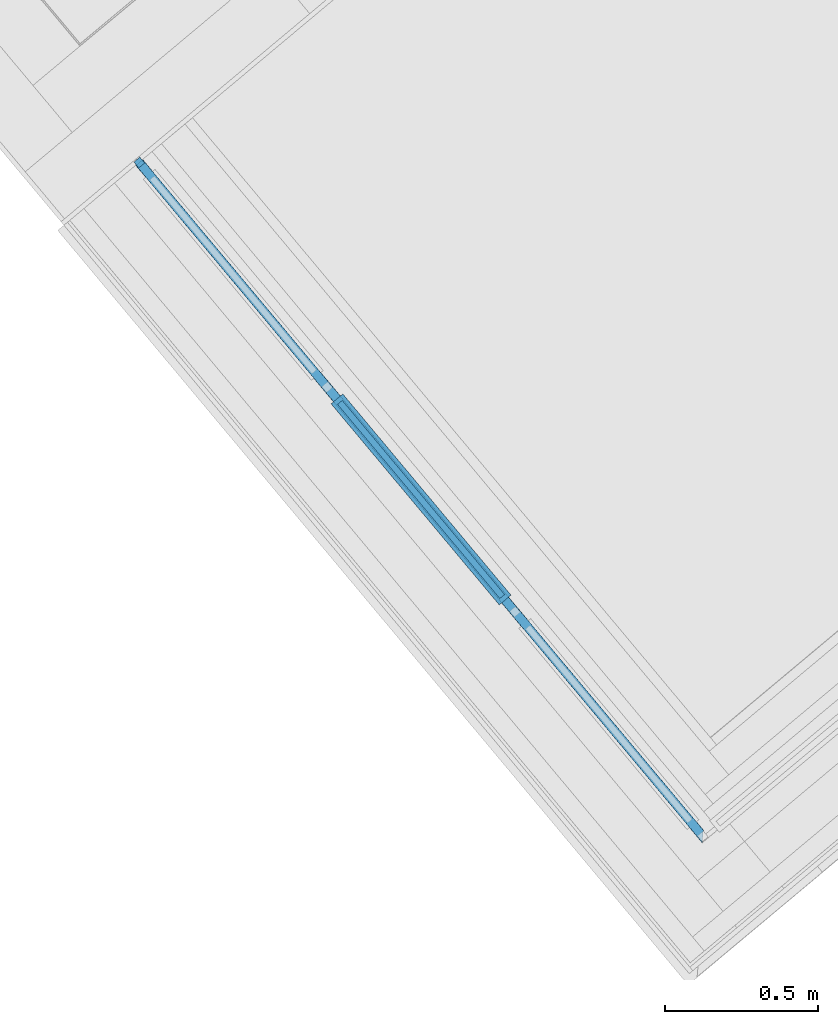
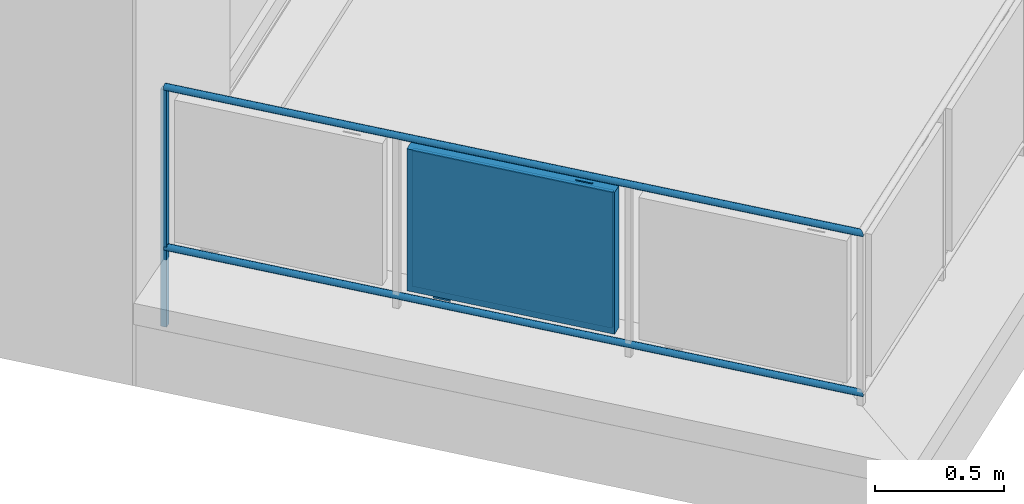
# One storey, part 11 of 50: 5 building element parts, 1 element without a shape of its own.
"""IFC4 building model written with IfcOpenShell, lengths in metres."""

from ifc_helpers import new_model, entity, si_unit, converted_unit, derived_unit, direction, frame, origin_with_axes, place, context, subcontext, project, spatial, polygons, material, type_object, element, aggregate, save


model = new_model("IFC4")

# Units and contexts
model_context = context("Model", 3, precision=1e-05, world=origin_with_axes(), true_north=direction((0.0, 1.0)))
body_context = subcontext(model_context, "Body", "Model", "MODEL_VIEW")
ifc_project = project(units=[si_unit("LENGTHUNIT", "METRE"), si_unit("AREAUNIT", "SQUARE_METRE"), si_unit("VOLUMEUNIT", "CUBIC_METRE"), converted_unit("PLANEANGLEUNIT", "DEGREE", entity("IfcPlaneAngleMeasure", 0.0174532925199), si_unit("PLANEANGLEUNIT", "RADIAN"), dimensions=[0, 0, 0, 0, 0, 0, 0]), converted_unit("TIMEUNIT", "Year", entity("IfcTimeMeasure", 31556926.0), si_unit("TIMEUNIT", "SECOND"), dimensions=[0, 0, 1, 0, 0, 0, 0]), si_unit("MASSUNIT", "GRAM", prefix="KILO"), si_unit("THERMODYNAMICTEMPERATUREUNIT", "DEGREE_CELSIUS"), si_unit("LUMINOUSINTENSITYUNIT", "LUMEN"), si_unit("ENERGYUNIT", "JOULE", prefix="MEGA"), derived_unit("THERMALCONDUCTANCEUNIT", [(si_unit("POWERUNIT", "WATT"), 1), (si_unit("LENGTHUNIT", "METRE"), -1), (si_unit("THERMODYNAMICTEMPERATUREUNIT", "KELVIN"), -1)]), derived_unit("SPECIFICHEATCAPACITYUNIT", [(si_unit("ENERGYUNIT", "JOULE"), 1), (si_unit("MASSUNIT", "GRAM", prefix="KILO"), -1), (si_unit("THERMODYNAMICTEMPERATUREUNIT", "KELVIN"), -1)]), derived_unit("MASSDENSITYUNIT", [(si_unit("MASSUNIT", "GRAM", prefix="KILO"), 1), (si_unit("VOLUMEUNIT", "CUBIC_METRE"), -1)])], contexts=[model_context])

# Site, building, storey, space
site_placement = place(None, frame((-0.00153261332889, -0.00661245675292, 0.0), z_axis=(0.0, 0.0, 1.0), x_axis=(1.0, 0.0, 0.0)))
site = spatial("IfcSite", under=ifc_project, at=site_placement, Name="Gelände", CompositionType="ELEMENT")
building_placement = place(site_placement, origin_with_axes())
building = spatial("IfcBuilding", under=site, at=building_placement, Name="Gebäude", CompositionType="ELEMENT")
storey_placement = place(building_placement, frame((0.0, 0.0, 8.66), z_axis=(0.0, 0.0, 1.0), x_axis=(1.0, 0.0, 0.0)))
storey = spatial("IfcBuildingStorey", under=building, at=storey_placement, Name="DG2", CompositionType="ELEMENT", Elevation=8.66)
space_placement = place(storey_placement, frame((2.45868563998, 17.3922711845, 0.22), z_axis=(0.0, 0.0, 1.0), x_axis=(-0.766948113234, -0.641709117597, 0.0)))
space = spatial("IfcSpace", under=storey, at=space_placement, CompositionType="ELEMENT", PredefinedType="NOTDEFINED")

# Railing, building element parts
railing_type = type_object("IfcRailingType", Name="Geländerart", PredefinedType="NOTDEFINED")
railing_placement = place(space_placement, frame((7.13717596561, 0.00077071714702, 0.16), z_axis=(0.0, 0.0, 1.0), x_axis=(-0.766948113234, 0.641709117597, 0.0)))
railing = element("IfcRailing", 1, at=railing_placement, inside=space, type_object=railing_type, Name="Geländer - 001", PredefinedType="NOTDEFINED")
ifc_material_1 = material(Name="Aluminium")
building_element_part_1_placement = place(railing_placement, origin_with_axes())
building_element_part_1 = element("IfcBuildingElementPart", 2, at=building_element_part_1_placement, material=ifc_material_1, Name="Aluminium", PredefinedType="NOTDEFINED", context=body_context, shape_type="Tessellation", body=[
    polygons([(-0.039926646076, -0.0496826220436, -0.3), (-0.0207485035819, -0.033645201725, -0.3), (-0.0207485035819, -0.033645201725, 0.82), (-0.039926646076, -0.0496826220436, 0.82), (-0.0559640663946, -0.0305044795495, -0.3), (-0.0367859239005, -0.0144670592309, -0.3), (-0.0367859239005, -0.0144670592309, 0.82), (-0.0559640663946, -0.0305044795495, 0.82)], [[[1, 2, 3, 4]], [[1, 5, 6, 2]], [[2, 6, 7, 3]], [[4, 3, 7, 8]], [[5, 1, 4, 8]], [[6, 5, 8, 7]]], closed=True),
])
building_element_part_2_placement = place(railing_placement, origin_with_axes())
building_element_part_2 = element("IfcBuildingElementPart", 3, at=building_element_part_2_placement, material=ifc_material_1, Name="Aluminium", PredefinedType="NOTDEFINED", context=body_context, shape_type="Tessellation", body=[
    polygons([(-0.0268493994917, -0.0224523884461, 0.825), (-0.0270242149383, -0.0225985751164, 0.827604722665), (1.80276676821, -2.21073055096, 0.827604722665), (1.80279568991, -2.21040989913, 0.825), (-0.0270242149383, -0.0225985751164, 0.822395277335), (-0.027543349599, -0.0230326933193, 0.81986969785), (-0.0283910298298, -0.023741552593, 0.8175), (-0.029541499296, -0.024703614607, 0.815358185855), (-0.030959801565, -0.0258896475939, 0.813509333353), (-0.03260284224, -0.0272636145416, 0.812009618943), (-0.0344206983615, -0.0287837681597, 0.810904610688), (-0.0363581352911, -0.0304039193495, 0.810227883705), (-0.0383562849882, -0.0320748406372, 0.81), (-0.0403544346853, -0.0337457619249, 0.810227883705), (-0.0422918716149, -0.0353659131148, 0.810904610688), (-0.0441097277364, -0.0368860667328, 0.812009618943), (-0.0457527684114, -0.0382600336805, 0.813509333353), (-0.0471710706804, -0.0394460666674, 0.815358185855), (-0.0483215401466, -0.0404081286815, 0.8175), (-0.0491692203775, -0.0411169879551, 0.81986969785), (-0.0496883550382, -0.0415511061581, 0.822395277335), (-0.0498631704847, -0.0416972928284, 0.825), (-0.0496883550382, -0.0415511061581, 0.827604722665), (-0.0491692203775, -0.0411169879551, 0.83013030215), (-0.0483215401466, -0.0404081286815, 0.8325), (-0.0471710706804, -0.0394460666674, 0.834641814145), (-0.0457527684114, -0.0382600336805, 0.836490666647), (-0.0441097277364, -0.0368860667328, 0.837990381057), (-0.0422918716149, -0.0353659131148, 0.839095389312), (-0.0403544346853, -0.0337457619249, 0.839772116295), (-0.0383562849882, -0.0320748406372, 0.84), (-0.0363581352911, -0.0304039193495, 0.839772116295), (-0.0344206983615, -0.0287837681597, 0.839095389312), (-0.03260284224, -0.0272636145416, 0.837990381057), (-0.030959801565, -0.0258896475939, 0.836490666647), (-0.029541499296, -0.024703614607, 0.834641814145), (-0.0283910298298, -0.023741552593, 0.8325), (-0.027543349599, -0.0230326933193, 0.83013030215), (1.80268088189, -2.21168276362, 0.83013030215), (1.80254064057, -2.21323760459, 0.8325), (1.80235030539, -2.21534783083, 0.834641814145), (1.80211565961, -2.21794932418, 0.836490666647), (1.80184383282, -2.22096303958, 0.837990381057), (1.80154308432, -2.22429740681, 0.839095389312), (1.80122255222, -2.22785111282, 0.839772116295), (1.80089197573, -2.23151618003, 0.84), (1.80056139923, -2.23518124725, 0.839772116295), (1.80024086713, -2.23873495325, 0.839095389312), (1.79994011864, -2.24206932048, 0.837990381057), (1.79966829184, -2.24508303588, 0.836490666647), (1.79943364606, -2.24768452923, 0.834641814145), (1.79924331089, -2.24979475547, 0.8325), (1.79910306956, -2.25134959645, 0.83013030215), (1.79901718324, -2.2523018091, 0.827604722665), (1.79898826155, -2.25262246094, 0.825), (1.79901718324, -2.2523018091, 0.822395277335), (1.79910306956, -2.25134959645, 0.81986969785), (1.79924331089, -2.24979475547, 0.8175), (1.79943364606, -2.24768452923, 0.815358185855), (1.79966829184, -2.24508303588, 0.813509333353), (1.79994011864, -2.24206932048, 0.812009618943), (1.80024086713, -2.23873495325, 0.810904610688), (1.80056139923, -2.23518124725, 0.810227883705), (1.80089197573, -2.23151618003, 0.81), (1.80122255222, -2.22785111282, 0.810227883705), (1.80154308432, -2.22429740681, 0.810904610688), (1.80184383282, -2.22096303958, 0.812009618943), (1.80211565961, -2.21794932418, 0.813509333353), (1.80235030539, -2.21534783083, 0.815358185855), (1.80254064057, -2.21323760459, 0.8175), (1.80268088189, -2.21168276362, 0.81986969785), (1.80276676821, -2.21073055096, 0.822395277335)], [[[1, 2, 3, 4]], [[1, 5, 6, 7, 8, 9, 10, 11, 12, 13, 14, 15, 16, 17, 18, 19, 20, 21, 22, 23, 24, 25, 26, 27, 28, 29, 30, 31, 32, 33, 34, 35, 36, 37, 38, 2]], [[2, 38, 39, 3]], [[4, 3, 39, 40, 41, 42, 43, 44, 45, 46, 47, 48, 49, 50, 51, 52, 53, 54, 55, 56, 57, 58, 59, 60, 61, 62, 63, 64, 65, 66, 67, 68, 69, 70, 71, 72]], [[5, 1, 4, 72]], [[6, 5, 72, 71]], [[7, 6, 71, 70]], [[8, 7, 70, 69]], [[9, 8, 69, 68]], [[10, 9, 68, 67]], [[11, 10, 67, 66]], [[12, 11, 66, 65]], [[13, 12, 65, 64]], [[14, 13, 64, 63]], [[15, 14, 63, 62]], [[16, 15, 62, 61]], [[17, 16, 61, 60]], [[18, 17, 60, 59]], [[19, 18, 59, 58]], [[20, 19, 58, 57]], [[21, 20, 57, 56]], [[22, 21, 56, 55]], [[23, 22, 55, 54]], [[24, 23, 54, 53]], [[25, 24, 53, 52]], [[26, 25, 52, 51]], [[27, 26, 51, 50]], [[28, 27, 50, 49]], [[29, 28, 49, 48]], [[30, 29, 48, 47]], [[31, 30, 47, 46]], [[32, 31, 46, 45]], [[33, 32, 45, 44]], [[34, 33, 44, 43]], [[35, 34, 43, 42]], [[36, 35, 42, 41]], [[37, 36, 41, 40]], [[38, 37, 40, 39]]], closed=True),
])
building_element_part_3_placement = place(railing_placement, origin_with_axes())
building_element_part_3 = element("IfcBuildingElementPart", 4, at=building_element_part_3_placement, material=ifc_material_1, Name="Aluminium", PredefinedType="NOTDEFINED", context=body_context, shape_type="Tessellation", body=[
    polygons([(-0.0268493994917, -0.0224523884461, 0.07), (-0.0270242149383, -0.0225985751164, 0.072604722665), (1.80276676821, -2.21073055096, 0.072604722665), (1.80279568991, -2.21040989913, 0.07), (-0.0270242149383, -0.0225985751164, 0.067395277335), (-0.027543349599, -0.0230326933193, 0.0648696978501), (-0.0283910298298, -0.023741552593, 0.0625), (-0.029541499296, -0.024703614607, 0.0603581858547), (-0.030959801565, -0.0258896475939, 0.0585093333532), (-0.03260284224, -0.0272636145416, 0.0570096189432), (-0.0344206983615, -0.0287837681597, 0.0559046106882), (-0.0363581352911, -0.0304039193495, 0.0552278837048), (-0.0383562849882, -0.0320748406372, 0.055), (-0.0403544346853, -0.0337457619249, 0.0552278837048), (-0.0422918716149, -0.0353659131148, 0.0559046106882), (-0.0441097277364, -0.0368860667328, 0.0570096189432), (-0.0457527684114, -0.0382600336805, 0.0585093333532), (-0.0471710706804, -0.0394460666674, 0.0603581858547), (-0.0483215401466, -0.0404081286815, 0.0625), (-0.0491692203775, -0.0411169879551, 0.0648696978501), (-0.0496883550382, -0.0415511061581, 0.067395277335), (-0.0498631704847, -0.0416972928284, 0.07), (-0.0496883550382, -0.0415511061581, 0.072604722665), (-0.0491692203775, -0.0411169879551, 0.0751303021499), (-0.0483215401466, -0.0404081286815, 0.0775), (-0.0471710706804, -0.0394460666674, 0.0796418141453), (-0.0457527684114, -0.0382600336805, 0.0814906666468), (-0.0441097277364, -0.0368860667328, 0.0829903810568), (-0.0422918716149, -0.0353659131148, 0.0840953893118), (-0.0403544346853, -0.0337457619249, 0.0847721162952), (-0.0383562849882, -0.0320748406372, 0.085), (-0.0363581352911, -0.0304039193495, 0.0847721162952), (-0.0344206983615, -0.0287837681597, 0.0840953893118), (-0.03260284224, -0.0272636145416, 0.0829903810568), (-0.030959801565, -0.0258896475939, 0.0814906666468), (-0.029541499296, -0.024703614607, 0.0796418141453), (-0.0283910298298, -0.023741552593, 0.0775), (-0.027543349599, -0.0230326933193, 0.0751303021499), (1.80268088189, -2.21168276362, 0.0751303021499), (1.80254064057, -2.21323760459, 0.0775), (1.80235030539, -2.21534783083, 0.0796418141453), (1.80211565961, -2.21794932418, 0.0814906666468), (1.80184383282, -2.22096303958, 0.0829903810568), (1.80154308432, -2.22429740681, 0.0840953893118), (1.80122255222, -2.22785111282, 0.0847721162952), (1.80089197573, -2.23151618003, 0.085), (1.80056139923, -2.23518124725, 0.0847721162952), (1.80024086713, -2.23873495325, 0.0840953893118), (1.79994011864, -2.24206932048, 0.0829903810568), (1.79966829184, -2.24508303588, 0.0814906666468), (1.79943364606, -2.24768452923, 0.0796418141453), (1.79924331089, -2.24979475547, 0.0775), (1.79910306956, -2.25134959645, 0.0751303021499), (1.79901718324, -2.2523018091, 0.072604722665), (1.79898826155, -2.25262246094, 0.07), (1.79901718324, -2.2523018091, 0.067395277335), (1.79910306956, -2.25134959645, 0.0648696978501), (1.79924331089, -2.24979475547, 0.0625), (1.79943364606, -2.24768452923, 0.0603581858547), (1.79966829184, -2.24508303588, 0.0585093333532), (1.79994011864, -2.24206932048, 0.0570096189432), (1.80024086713, -2.23873495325, 0.0559046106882), (1.80056139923, -2.23518124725, 0.0552278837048), (1.80089197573, -2.23151618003, 0.055), (1.80122255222, -2.22785111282, 0.0552278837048), (1.80154308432, -2.22429740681, 0.0559046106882), (1.80184383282, -2.22096303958, 0.0570096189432), (1.80211565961, -2.21794932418, 0.0585093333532), (1.80235030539, -2.21534783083, 0.0603581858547), (1.80254064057, -2.21323760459, 0.0625), (1.80268088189, -2.21168276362, 0.0648696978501), (1.80276676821, -2.21073055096, 0.067395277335)], [[[1, 2, 3, 4]], [[1, 5, 6, 7, 8, 9, 10, 11, 12, 13, 14, 15, 16, 17, 18, 19, 20, 21, 22, 23, 24, 25, 26, 27, 28, 29, 30, 31, 32, 33, 34, 35, 36, 37, 38, 2]], [[2, 38, 39, 3]], [[4, 3, 39, 40, 41, 42, 43, 44, 45, 46, 47, 48, 49, 50, 51, 52, 53, 54, 55, 56, 57, 58, 59, 60, 61, 62, 63, 64, 65, 66, 67, 68, 69, 70, 71, 72]], [[5, 1, 4, 72]], [[6, 5, 72, 71]], [[7, 6, 71, 70]], [[8, 7, 70, 69]], [[9, 8, 69, 68]], [[10, 9, 68, 67]], [[11, 10, 67, 66]], [[12, 11, 66, 65]], [[13, 12, 65, 64]], [[14, 13, 64, 63]], [[15, 14, 63, 62]], [[16, 15, 62, 61]], [[17, 16, 61, 60]], [[18, 17, 60, 59]], [[19, 18, 59, 58]], [[20, 19, 58, 57]], [[21, 20, 57, 56]], [[22, 21, 56, 55]], [[23, 22, 55, 54]], [[24, 23, 54, 53]], [[25, 24, 53, 52]], [[26, 25, 52, 51]], [[27, 26, 51, 50]], [[28, 27, 50, 49]], [[29, 28, 49, 48]], [[30, 29, 48, 47]], [[31, 30, 47, 46]], [[32, 31, 46, 45]], [[33, 32, 45, 44]], [[34, 33, 44, 43]], [[35, 34, 43, 42]], [[36, 35, 42, 41]], [[37, 36, 41, 40]], [[38, 37, 40, 39]]], closed=True),
])
ifc_material_2 = material(Name="Profilit")
building_element_part_4_placement = place(railing_placement, origin_with_axes())
building_element_part_4 = element("IfcBuildingElementPart", 5, at=building_element_part_4_placement, material=ifc_material_2, Name="Profilit", PredefinedType="NOTDEFINED", context=body_context, shape_type="Tessellation", body=[
    polygons([(1.15378318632, -1.44209092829, 0.135), (0.624095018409, -0.808670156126, 0.135), (0.624095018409, -0.808670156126, 0.775), (1.15378318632, -1.44209092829, 0.775), (0.608752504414, -0.821500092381, 0.135), (1.13844067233, -1.45492086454, 0.135), (0.608752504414, -0.821500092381, 0.775), (1.13844067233, -1.45492086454, 0.775)], [[[1, 2, 3, 4]], [[5, 2, 1, 6]], [[7, 3, 2, 5]], [[4, 3, 7, 8]], [[1, 4, 8, 6]], [[7, 5, 6, 8]]], closed=True),
])
building_element_part_5_placement = place(railing_placement, origin_with_axes())
building_element_part_5 = element("IfcBuildingElementPart", 6, at=building_element_part_5_placement, material=ifc_material_1, Name="Aluminium", PredefinedType="NOTDEFINED", context=body_context, shape_type="Tessellation", body=[
    polygons([(0.672868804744, -0.878687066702, 0.12), (0.717773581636, -0.932385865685, 0.12), (0.717773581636, -0.932385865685, 0.095), (0.672868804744, -0.878687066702, 0.095), (0.669033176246, -0.881894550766, 0.12), (0.713937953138, -0.935593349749, 0.12), (0.713937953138, -0.935593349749, 0.095), (0.669033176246, -0.881894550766, 0.095)], [[[1, 2, 3, 4]], [[5, 6, 2, 1]], [[2, 6, 7, 3]], [[4, 3, 7, 8]], [[1, 4, 8, 5]], [[8, 7, 6, 5]]], closed=True),
    polygons([(1.09350251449, -1.3816964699, 0.79), (1.0485977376, -1.32799767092, 0.79), (1.0485977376, -1.32799767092, 0.795), (1.09350251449, -1.3816964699, 0.795), (1.08966688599, -1.38490395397, 0.79), (1.0447621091, -1.33120515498, 0.79), (1.0447621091, -1.33120515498, 0.795), (1.08966688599, -1.38490395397, 0.795)], [[[1, 2, 3, 4]], [[5, 6, 2, 1]], [[2, 6, 7, 3]], [[4, 3, 7, 8]], [[1, 4, 8, 5]], [[8, 7, 6, 5]]], closed=True),
    polygons([(0.587623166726, -0.819615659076, 0.12), (0.625979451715, -0.787540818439, 0.12), (1.17491252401, -1.44397536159, 0.12), (1.13655623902, -1.47605020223, 0.12), (0.600453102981, -0.834958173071, 0.14), (0.611959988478, -0.82533572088, 0.14), (0.608752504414, -0.821500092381, 0.135), (0.624095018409, -0.808670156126, 0.135), (0.627302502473, -0.812505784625, 0.14), (0.63880938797, -0.802883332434, 0.14), (1.16208258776, -1.4286328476, 0.14), (1.16208258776, -1.4286328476, 0.77), (0.63880938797, -0.802883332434, 0.77), (0.63880938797, -0.802883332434, 0.14), (0.625979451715, -0.787540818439, 0.12), (0.625979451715, -0.787540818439, 0.79), (1.17491252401, -1.44397536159, 0.79), (1.13655623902, -1.47605020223, 0.79), (0.587623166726, -0.819615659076, 0.79), (0.587623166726, -0.819615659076, 0.12), (0.600453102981, -0.834958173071, 0.14), (0.600453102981, -0.834958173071, 0.77), (1.12372630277, -1.46070768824, 0.77), (1.12372630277, -1.46070768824, 0.14), (1.13523318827, -1.45108523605, 0.14), (1.13523318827, -1.45108523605, 0.77), (0.611959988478, -0.82533572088, 0.77), (0.611959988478, -0.82533572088, 0.14), (0.608752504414, -0.821500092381, 0.135), (0.608752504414, -0.821500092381, 0.775), (1.13844067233, -1.45492086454, 0.775), (1.13844067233, -1.45492086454, 0.135), (1.15378318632, -1.44209092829, 0.135), (1.15378318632, -1.44209092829, 0.775), (0.624095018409, -0.808670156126, 0.775), (0.624095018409, -0.808670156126, 0.135), (0.627302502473, -0.812505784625, 0.14), (0.627302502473, -0.812505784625, 0.77), (1.15057570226, -1.43825529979, 0.77), (1.15057570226, -1.43825529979, 0.14)], [[[1, 2, 3, 4]], [[1, 5, 6, 7, 8, 9, 10, 2]], [[2, 10, 11, 12, 13, 14, 15, 16, 17, 3]], [[4, 3, 17, 18]], [[5, 1, 4, 18, 19, 20, 21, 22, 23, 24]], [[6, 5, 24, 25]], [[7, 6, 25, 26, 27, 28, 29, 30, 31, 32]], [[8, 7, 32, 33]], [[9, 8, 33, 34, 35, 36, 37, 38, 39, 40]], [[10, 9, 40, 11]], [[11, 40, 39, 12]], [[12, 39, 38, 13]], [[13, 38, 37, 14]], [[20, 15, 14, 37, 36, 29, 28, 21]], [[19, 16, 15, 20]], [[18, 17, 16, 19]], [[27, 22, 21, 28]], [[26, 23, 22, 27]], [[25, 24, 23, 26]], [[35, 30, 29, 36]], [[34, 31, 30, 35]], [[33, 32, 31, 34]]], closed=True),
])
aggregate(railing, [building_element_part_1, building_element_part_2, building_element_part_3, building_element_part_4, building_element_part_5])

save(model, "model.ifc")
